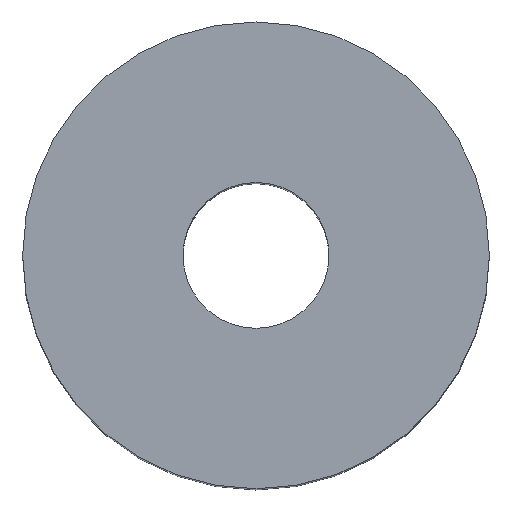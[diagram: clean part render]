
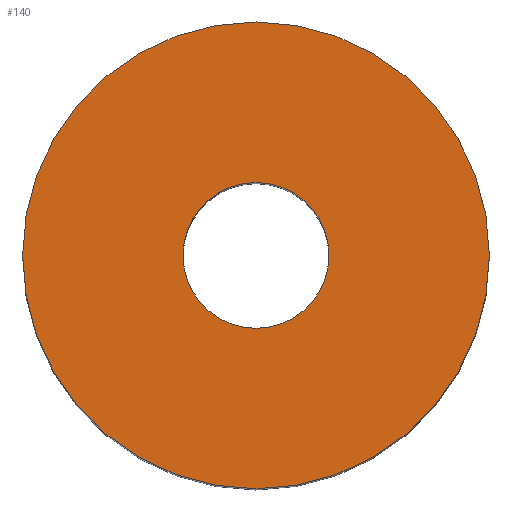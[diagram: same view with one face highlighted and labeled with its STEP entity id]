
A CAD part, top view. The second image highlights one B-rep face of the part: STEP entity #140.
In plain terms, the highlighted planar face has unit normal (0, 0, 1).
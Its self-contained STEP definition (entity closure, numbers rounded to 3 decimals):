
#24 = VERTEX_POINT('',#25);
#25 = CARTESIAN_POINT('',(88.,-50.,36.));
#32 = CYLINDRICAL_SURFACE('',#33,8.);
#33 = AXIS2_PLACEMENT_3D('',#34,#35,#36);
#34 = CARTESIAN_POINT('',(80.,-50.,12.));
#35 = DIRECTION('',(-0.,-0.,-1.));
#36 = DIRECTION('',(1.,0.,0.));
#51 = EDGE_CURVE('',#24,#24,#52,.T.);
#52 = SURFACE_CURVE('',#53,(#58,#65),.PCURVE_S1.);
#53 = CIRCLE('',#54,8.);
#54 = AXIS2_PLACEMENT_3D('',#55,#56,#57);
#55 = CARTESIAN_POINT('',(80.,-50.,36.));
#56 = DIRECTION('',(0.,0.,1.));
#57 = DIRECTION('',(1.,0.,0.));
#58 = PCURVE('',#32,#59);
#59 = DEFINITIONAL_REPRESENTATION('',(#60),#64);
#60 = LINE('',#61,#62);
#61 = CARTESIAN_POINT('',(-0.,-24.));
#62 = VECTOR('',#63,1.);
#63 = DIRECTION('',(-1.,0.));
#64 = ( GEOMETRIC_REPRESENTATION_CONTEXT(2) 
PARAMETRIC_REPRESENTATION_CONTEXT() REPRESENTATION_CONTEXT('2D SPACE',''
  ) );
#65 = PCURVE('',#66,#71);
#66 = PLANE('',#67);
#67 = AXIS2_PLACEMENT_3D('',#68,#69,#70);
#68 = CARTESIAN_POINT('',(80.,-50.,36.));
#69 = DIRECTION('',(0.,0.,1.));
#70 = DIRECTION('',(1.,0.,-0.));
#71 = DEFINITIONAL_REPRESENTATION('',(#72),#76);
#72 = CIRCLE('',#73,8.);
#73 = AXIS2_PLACEMENT_2D('',#74,#75);
#74 = CARTESIAN_POINT('',(0.,0.));
#75 = DIRECTION('',(1.,0.));
#76 = ( GEOMETRIC_REPRESENTATION_CONTEXT(2) 
PARAMETRIC_REPRESENTATION_CONTEXT() REPRESENTATION_CONTEXT('2D SPACE',''
  ) );
#129 = CYLINDRICAL_SURFACE('',#130,2.5);
#130 = AXIS2_PLACEMENT_3D('',#131,#132,#133);
#131 = CARTESIAN_POINT('',(80.,-50.,12.));
#132 = DIRECTION('',(-0.,-0.,-1.));
#133 = DIRECTION('',(1.,0.,0.));
#140 = ADVANCED_FACE('',(#141,#144),#66,.T.);
#141 = FACE_BOUND('',#142,.T.);
#142 = EDGE_LOOP('',(#143));
#143 = ORIENTED_EDGE('',*,*,#51,.T.);
#144 = FACE_BOUND('',#145,.T.);
#145 = EDGE_LOOP('',(#146));
#146 = ORIENTED_EDGE('',*,*,#147,.F.);
#147 = EDGE_CURVE('',#148,#148,#150,.T.);
#148 = VERTEX_POINT('',#149);
#149 = CARTESIAN_POINT('',(82.5,-50.,36.));
#150 = SURFACE_CURVE('',#151,(#156,#163),.PCURVE_S1.);
#151 = CIRCLE('',#152,2.5);
#152 = AXIS2_PLACEMENT_3D('',#153,#154,#155);
#153 = CARTESIAN_POINT('',(80.,-50.,36.));
#154 = DIRECTION('',(0.,0.,1.));
#155 = DIRECTION('',(1.,0.,0.));
#156 = PCURVE('',#66,#157);
#157 = DEFINITIONAL_REPRESENTATION('',(#158),#162);
#158 = CIRCLE('',#159,2.5);
#159 = AXIS2_PLACEMENT_2D('',#160,#161);
#160 = CARTESIAN_POINT('',(0.,0.));
#161 = DIRECTION('',(1.,0.));
#162 = ( GEOMETRIC_REPRESENTATION_CONTEXT(2) 
PARAMETRIC_REPRESENTATION_CONTEXT() REPRESENTATION_CONTEXT('2D SPACE',''
  ) );
#163 = PCURVE('',#129,#164);
#164 = DEFINITIONAL_REPRESENTATION('',(#165),#169);
#165 = LINE('',#166,#167);
#166 = CARTESIAN_POINT('',(-0.,-24.));
#167 = VECTOR('',#168,1.);
#168 = DIRECTION('',(-1.,0.));
#169 = ( GEOMETRIC_REPRESENTATION_CONTEXT(2) 
PARAMETRIC_REPRESENTATION_CONTEXT() REPRESENTATION_CONTEXT('2D SPACE',''
  ) );
